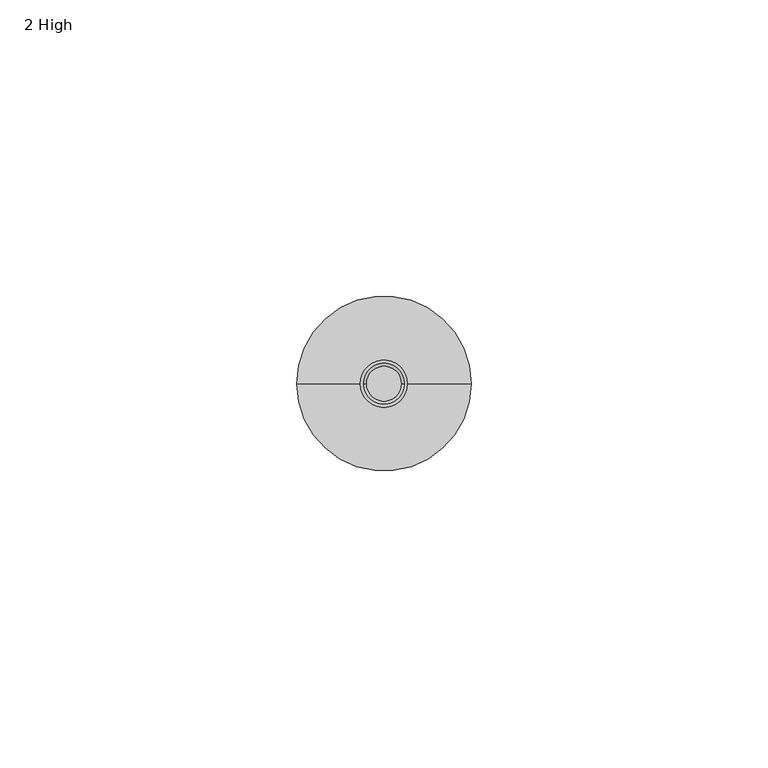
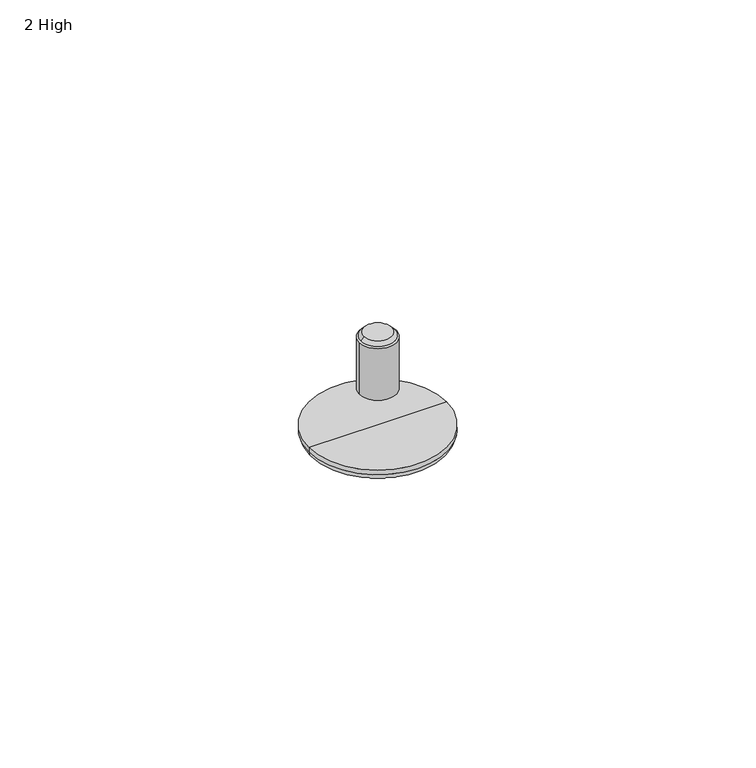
"""IFC4 building model written with IfcOpenShell, lengths in millimetres: furniture geometry, Steelcase Turnstone - Bivi - Storage - Depot : 2 High."""

from ifc_helpers import new_model, si_unit, point, frame, frame_2d, origin, place, context, project, spatial, circle_curve, ellipse_curve, trimmed, segment, composite_curve, outline, extrude, source, transform, mapped, element, save
from ifc_brep_helpers import plane_surface, cylinder_surface, revolved_surface, spline_surface, advanced_brep


def furniture_2_high_e7661cec(model_context):
    return source(origin(), model_context, "Body", "SolidModel", [
        advanced_brep(
        [(65.5310488, 314.3469759, 2.6178944), (36.0749366, 314.3469759, 2.6178944), (50.8029927, 314.3469759, 2.6178944), (65.5310488, 314.3469759, 1.580664), (36.0749366, 314.3469759, 1.580664), (63.9503848, 314.3469759, 0.0), (37.6556006, 314.3469759, 0.0), (50.8029927, 314.3469759, 0.0)],
        [
            (0, 1, circle_curve(frame((50.8029927, 314.3469759, 2.6178944), z_axis=(0.0, 0.0, 1.0), x_axis=(-1.0, 0.0, 0.0)), 14.7280561)),
            (1, 2),
            (2, 0),
            (1, 0, circle_curve(frame((50.8029927, 314.3469759, 2.6178944), z_axis=(0.0, 0.0, 1.0), x_axis=(-1.0, 0.0, 0.0)), 14.7280561)),
            (3, 4, circle_curve(frame((50.8029927, 314.3469759, 1.580664), z_axis=(0.0, 0.0, 1.0), x_axis=(-1.0, 0.0, 0.0)), 14.7280561)),
            (4, 1),
            (0, 3),
            (4, 3, circle_curve(frame((50.8029927, 314.3469759, 1.580664), z_axis=(0.0, 0.0, 1.0), x_axis=(-1.0, 0.0, 0.0)), 14.7280561)),
            (5, 6, circle_curve(frame((50.8029927, 314.3469759, 0.0), z_axis=(0.0, 0.0, 1.0), x_axis=(-1.0, 0.0, 0.0)), 13.1473921)),
            (6, 4, circle_curve(frame((37.6556006, 314.3469759, 1.580664), z_axis=(0.0, 1.0, 0.0), x_axis=(1.0, 0.0, 0.0)), 1.580664)),
            (3, 5, circle_curve(frame((63.9503848, 314.3469759, 1.580664), z_axis=(0.0, 1.0, 0.0), x_axis=(-1.0, 0.0, 0.0)), 1.580664)),
            (6, 5, circle_curve(frame((50.8029927, 314.3469759, 0.0), z_axis=(0.0, 0.0, 1.0), x_axis=(-1.0, 0.0, 0.0)), 13.1473921)),
            (7, 6),
            (5, 7),
        ],
        [
            plane_surface(frame((50.8029927, 314.3469759, 2.6178944), z_axis=(0.0, 0.0, 1.0), x_axis=(-1.0, 0.0, 0.0))),
            cylinder_surface(frame((50.8029927, 314.3469759, 2.6178944), z_axis=(0.0, 0.0, -1.0), x_axis=(-1.0, 0.0, 0.0)), 14.7280561),
            revolved_surface(trimmed(ellipse_curve(frame((37.6556006, 314.3469759, 1.580664), z_axis=(0.0, -1.0, 0.0), x_axis=(1.0, 0.0, 0.0)), 1.580664, 1.580664), [point((36.0749366, 314.3469759, 1.580664))], [point((37.6556006, 314.3469759, 0.0))], True, "CARTESIAN"), (50.8029927, 314.3469759, 2.6178944), (0.0, 0.0, -1.0)),
            plane_surface(frame((50.8029927, 314.3469759, 0.0), z_axis=(0.0, 0.0, -1.0), x_axis=(-1.0, 0.0, 0.0))),
        ],
        [
            (0, [[1, 2, 3]]),
            (0, [[4, -3, -2]]),
            (1, [[5, 6, -1, 7]]),
            (1, [[8, -7, -4, -6]]),
            (2, [[9, 10, -5, 11]]),
            (2, [[12, -11, -8, -10]]),
            (3, [[13, -9, 14]]),
            (3, [[-14, -12, -13]]),
        ],
    ),
        extrude(outline(composite_curve([segment(trimmed(circle_curve(frame_2d((50.7916786, 314.3066921)), 3.9557313), [point((46.8359473, 314.3066921))], [point((54.7474099, 314.3066921))], False, "CARTESIAN"), True, "CONTINUOUS"), segment(trimmed(circle_curve(frame_2d((50.7916786, 314.3066921)), 3.9557313), [point((54.7474099, 314.3066921))], [point((46.8359473, 314.3066921))], False, "CARTESIAN"), True, "CONTINUOUS")], self_intersect=False)), frame((0.0, 0.0, 10.8986525), z_axis=(0.0, 0.0, 1.0), x_axis=(1.0, 0.0, 0.0)), (0.0, 0.0, 1.0), 11.6640053),
        advanced_brep(
        [(46.8582767, 314.3151933, 22.5626578), (54.7482407, 314.3151933, 22.5626578), (47.8550405, 314.3151933, 23.622), (53.7262577, 314.3151933, 23.622)],
        [
            (0, 1, circle_curve(frame((50.8032587, 314.3151933, 22.5626578), z_axis=(0.0, 0.0, -1.0), x_axis=(1.0, 0.0, 0.0)), 3.944982)),
            (1, 0, circle_curve(frame((50.8032587, 314.3151933, 22.5626578), z_axis=(0.0, 0.0, -1.0), x_axis=(1.0, 0.0, 0.0)), 3.944982)),
            (2, 3, circle_curve(frame((50.7906491, 314.3151933, 23.622), z_axis=(0.0, 0.0, 1.0), x_axis=(1.0, 0.0, 0.0)), 2.9356086)),
            (3, 2, circle_curve(frame((50.7906491, 314.3151933, 23.622), z_axis=(0.0, 0.0, 1.0), x_axis=(1.0, 0.0, 0.0)), 2.9356086)),
            (3, 1),
            (0, 2),
        ],
        [
            plane_surface(frame((50.8032587, 314.3151933, 22.5626578), z_axis=(0.0, 0.0, -1.0), x_axis=(0.0, -1.0, 0.0))),
            plane_surface(frame((50.7906491, 314.3151933, 23.622), z_axis=(0.0, 0.0, 1.0), x_axis=(0.0, -1.0, 0.0))),
            spline_surface(2, 1, [[(47.8550405, 314.3151933, 23.622), (46.8582767, 314.3151933, 22.5626578)], [(47.8550405, 317.2508019, 23.622), (46.8582767, 318.26017529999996, 22.5626578)], [(50.7906491, 317.2508019, 23.622), (50.8032587, 318.26017529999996, 22.5626578)], [(53.726257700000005, 317.2508019, 23.622), (54.748240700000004, 318.2601753, 22.5626578)], [(53.7262577, 314.3151933, 23.622), (54.7482407, 314.3151933, 22.5626578)]], [3, 2, 3], [2, 2], [0.0, 1.0, 2.0], [0.0, 1.0], weights=[[1.0, 1.0], [0.7071067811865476, 0.7071067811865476], [1.0, 1.0], [0.7071067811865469, 0.7071067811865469], [1.0, 1.0]]),
            spline_surface(2, 1, [[(53.7262577, 314.3151933, 23.622), (54.7482407, 314.3151933, 22.5626578)], [(53.7262577, 311.3795847, 23.622), (54.7482407, 310.3702113, 22.5626578)], [(50.7906491, 311.3795847, 23.622), (50.8032587, 310.3702113, 22.5626578)], [(47.85504050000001, 311.3795847, 23.622), (46.858276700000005, 310.3702113, 22.5626578)], [(47.8550405, 314.3151933, 23.622), (46.8582767, 314.3151933, 22.5626578)]], [3, 2, 3], [2, 2], [0.0, 1.0, 2.0], [0.0, 1.0], weights=[[1.0, 1.0], [0.7071067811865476, 0.7071067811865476], [1.0, 1.0], [0.7071067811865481, 0.7071067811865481], [1.0, 1.0]]),
        ],
        [
            (0, [[1, 2]]),
            (1, [[3, 4]]),
            (2, [[-4, 5, -1, 6]]),
            (3, [[-3, -6, -2, -5]]),
        ],
    ),
    ])


if __name__ == "__main__":
    model = new_model("IFC4")
    model_context = context("Model", 3, world=origin())
    ifc_project = project(units=[si_unit("LENGTHUNIT", "METRE", prefix="MILLI")], contexts=[model_context])
    site = spatial("IfcSite", under=ifc_project)
    building = spatial("IfcBuilding", under=site)
    placement = place(None, origin())
    furniture_2_high_shape = furniture_2_high_e7661cec(model_context)
    element("IfcFurniture", 1, ObjectType="Steelcase Turnstone - Bivi - Storage - Depot : 2 High", at=placement, inside=building, context=model_context, shape_type="MappedRepresentation", body=[
        mapped(furniture_2_high_shape, transform((0.0, 0.0, 0.0), x_axis=(1.0, 0.0, 0.0), y_axis=(0.0, 1.0, 0.0), z_axis=(0.0, 0.0, 1.0))),
    ])
    save(model, "model.ifc")
